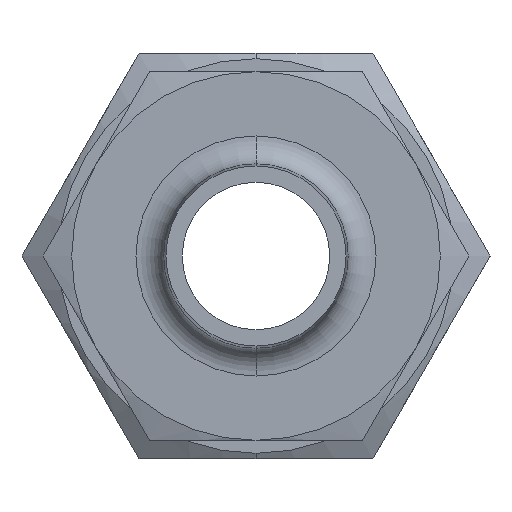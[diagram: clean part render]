
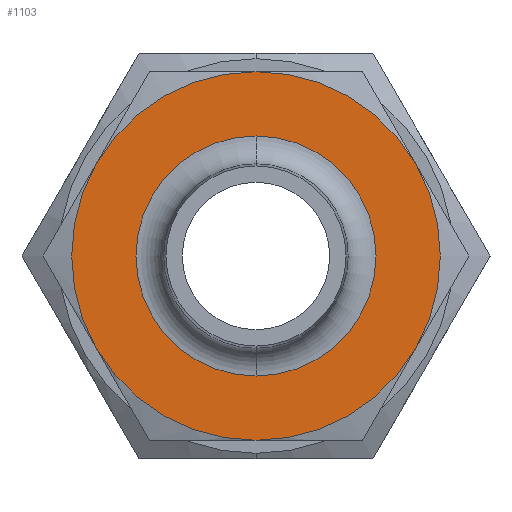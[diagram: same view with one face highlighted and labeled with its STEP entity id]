
A CAD part, left-side view. The second image highlights one B-rep face of the part: STEP entity #1103.
In plain terms, the highlighted planar face has unit normal (-1, 0, 0).
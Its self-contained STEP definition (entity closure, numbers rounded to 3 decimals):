
#103 = CARTESIAN_POINT ( 'NONE',  ( 0., 0., -7.94 ) ) ;
#137 = CARTESIAN_POINT ( 'NONE',  ( 0., -6.876, -3.97 ) ) ;
#784 = CARTESIAN_POINT ( 'NONE',  ( 0., 6.876, -3.97 ) ) ;
#857 = CARTESIAN_POINT ( 'NONE',  ( 0., 0., 5.17 ) ) ;
#872 = CARTESIAN_POINT ( 'NONE',  ( 0., 6.876, 3.97 ) ) ;
#1030 = CARTESIAN_POINT ( 'NONE',  ( 0., 0., -5.17 ) ) ;
#1031 = DIRECTION ( 'NONE',  ( 0., 0., -1. ) ) ;
#1032 = DIRECTION ( 'NONE',  ( 1., 0., 0. ) ) ;
#1033 = CARTESIAN_POINT ( 'NONE',  ( 0., 0., 0. ) ) ;
#1034 = AXIS2_PLACEMENT_3D ( 'NONE', #1033, #1032, #1031 ) ;
#1035 = CIRCLE ( 'NONE', #1034, 5.17 ) ;
#1045 = DIRECTION ( 'NONE',  ( 0., 0., -1. ) ) ;
#1046 = DIRECTION ( 'NONE',  ( 1., 0., 0. ) ) ;
#1047 = CARTESIAN_POINT ( 'NONE',  ( 0., 0., 0. ) ) ;
#1048 = AXIS2_PLACEMENT_3D ( 'NONE', #1047, #1046, #1045 ) ;
#1049 = CIRCLE ( 'NONE', #1048, 7.94 ) ;
#1050 = DIRECTION ( 'NONE',  ( 0., 0., 1. ) ) ;
#1051 = DIRECTION ( 'NONE',  ( -1., 0., 0. ) ) ;
#1052 = AXIS2_PLACEMENT_3D ( 'NONE', #1058, #1051, #1050 ) ;
#1053 = CIRCLE ( 'NONE', #1052, 7.94 ) ;
#1054 = DIRECTION ( 'NONE',  ( 0., 0., -1. ) ) ;
#1055 = DIRECTION ( 'NONE',  ( 1., 0., 0. ) ) ;
#1056 = AXIS2_PLACEMENT_3D ( 'NONE', #1063, #1055, #1054 ) ;
#1057 = CIRCLE ( 'NONE', #1056, 7.94 ) ;
#1058 = CARTESIAN_POINT ( 'NONE',  ( 0., 0., 0. ) ) ;
#1059 = DIRECTION ( 'NONE',  ( 0., 0., -1. ) ) ;
#1060 = DIRECTION ( 'NONE',  ( 1., 0., 0. ) ) ;
#1061 = AXIS2_PLACEMENT_3D ( 'NONE', #1068, #1060, #1059 ) ;
#1062 = CIRCLE ( 'NONE', #1061, 7.94 ) ;
#1063 = CARTESIAN_POINT ( 'NONE',  ( 0., 0., 0. ) ) ;
#1068 = CARTESIAN_POINT ( 'NONE',  ( 0., 0., 0. ) ) ;
#1103 = ADVANCED_FACE ( 'NONE', ( #1779, #1781 ), #1774, .F. ) ;
#1104 = EDGE_LOOP ( 'NONE', ( #1105, #1107 ) ) ;
#1105 = ORIENTED_EDGE ( 'NONE', *, *, #1106, .T. ) ;
#1106 = EDGE_CURVE ( 'NONE', #1183, #1253, #1768, .T. ) ;
#1107 = ORIENTED_EDGE ( 'NONE', *, *, #1182, .T. ) ;
#1108 = EDGE_LOOP ( 'NONE', ( #1109, #1111, #1205, #1207, #1209, #1211 ) ) ;
#1109 = ORIENTED_EDGE ( 'NONE', *, *, #1110, .F. ) ;
#1110 = EDGE_CURVE ( 'NONE', #1347, #1697, #1763, .T. ) ;
#1111 = ORIENTED_EDGE ( 'NONE', *, *, #1112, .F. ) ;
#1112 = EDGE_CURVE ( 'NONE', #1338, #1347, #1759, .T. ) ;
#1124 = VERTEX_POINT ( 'NONE', #1732 ) ;
#1135 = VERTEX_POINT ( 'NONE', #1708 ) ;
#1182 = EDGE_CURVE ( 'NONE', #1253, #1183, #1035, .T. ) ;
#1183 = VERTEX_POINT ( 'NONE', #1030 ) ;
#1201 = VERTEX_POINT ( 'NONE', #872 ) ;
#1205 = ORIENTED_EDGE ( 'NONE', *, *, #1206, .F. ) ;
#1206 = EDGE_CURVE ( 'NONE', #1135, #1338, #1062, .T. ) ;
#1207 = ORIENTED_EDGE ( 'NONE', *, *, #1208, .F. ) ;
#1208 = EDGE_CURVE ( 'NONE', #1124, #1135, #1057, .T. ) ;
#1209 = ORIENTED_EDGE ( 'NONE', *, *, #1210, .T. ) ;
#1210 = EDGE_CURVE ( 'NONE', #1124, #1201, #1053, .T. ) ;
#1211 = ORIENTED_EDGE ( 'NONE', *, *, #1212, .F. ) ;
#1212 = EDGE_CURVE ( 'NONE', #1697, #1201, #1049, .T. ) ;
#1253 = VERTEX_POINT ( 'NONE', #857 ) ;
#1338 = VERTEX_POINT ( 'NONE', #137 ) ;
#1347 = VERTEX_POINT ( 'NONE', #103 ) ;
#1697 = VERTEX_POINT ( 'NONE', #784 ) ;
#1708 = CARTESIAN_POINT ( 'NONE',  ( 0., -6.876, 3.97 ) ) ;
#1732 = CARTESIAN_POINT ( 'NONE',  ( 0., 0., 7.94 ) ) ;
#1755 = DIRECTION ( 'NONE',  ( 0., 0., -1. ) ) ;
#1756 = DIRECTION ( 'NONE',  ( 1., 0., 0. ) ) ;
#1757 = CARTESIAN_POINT ( 'NONE',  ( 0., 0., 0. ) ) ;
#1758 = AXIS2_PLACEMENT_3D ( 'NONE', #1757, #1756, #1755 ) ;
#1759 = CIRCLE ( 'NONE', #1758, 7.94 ) ;
#1760 = DIRECTION ( 'NONE',  ( 0., 0., -1. ) ) ;
#1761 = DIRECTION ( 'NONE',  ( 1., 0., 0. ) ) ;
#1762 = AXIS2_PLACEMENT_3D ( 'NONE', #1769, #1761, #1760 ) ;
#1763 = CIRCLE ( 'NONE', #1762, 7.94 ) ;
#1764 = DIRECTION ( 'NONE',  ( 0., 0., -1. ) ) ;
#1765 = DIRECTION ( 'NONE',  ( 1., 0., 0. ) ) ;
#1766 = CARTESIAN_POINT ( 'NONE',  ( 0., 0., 0. ) ) ;
#1767 = AXIS2_PLACEMENT_3D ( 'NONE', #1766, #1765, #1764 ) ;
#1768 = CIRCLE ( 'NONE', #1767, 5.17 ) ;
#1769 = CARTESIAN_POINT ( 'NONE',  ( 0., 0., 0. ) ) ;
#1770 = DIRECTION ( 'NONE',  ( 0., 0., -1. ) ) ;
#1771 = DIRECTION ( 'NONE',  ( 1., 0., 0. ) ) ;
#1772 = CARTESIAN_POINT ( 'NONE',  ( 0., 9.168, 0. ) ) ;
#1773 = AXIS2_PLACEMENT_3D ( 'NONE', #1772, #1771, #1770 ) ;
#1774 = PLANE ( 'NONE',  #1773 ) ;
#1779 = FACE_BOUND ( 'NONE', #1104, .T. ) ;
#1781 = FACE_OUTER_BOUND ( 'NONE', #1108, .T. ) ;
